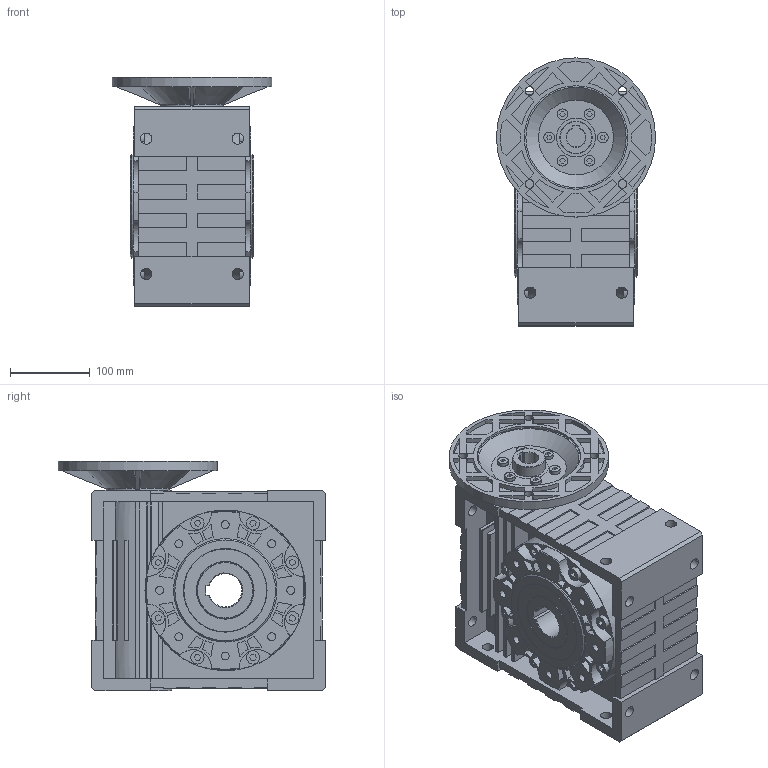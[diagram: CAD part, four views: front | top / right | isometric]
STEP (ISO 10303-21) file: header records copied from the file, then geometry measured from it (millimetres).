
FILE_DESCRIPTION(/* description */ (''),/* implementation_level */ '2;1');
FILE_NAME(/* name */ 'Z:\동력 3D 파일\PCMRV110_90B5_3D.stp',/* time_stamp */ '2021-12-01T17:35:33+09:00',/* author */ ('jaebok'),/* organization */ (''),/* preprocessor_version */ 'ST-DEVELOPER v18.1',/* originating_system */ 'Autodesk Inventor 2022',/* authorisation */ '');
FILE_SCHEMA (('AUTOMOTIVE_DESIGN { 1 0 10303 214 3 1 1 }'));
Length unit declared in the file: millimetre
Products named in the file (1): 부품57
Bounding box: 200 x 336.5 x 288 mm (x, y, z)
Volume: 8651435.5 mm3; surface area: 628908.4 mm2
Topology: 1 solids, 1 shells, 958 faces, 2456 edges, 1633 vertices
Faces by surface type: plane 634, cylinder 291, cone 33
Full cylindrical faces by diameter (mm): 10 x16, 11 x4, 13.331 x6, 14 x16, 16.5 x16, 40.8 x1, 48.96 x1, 71.4 x2, 78.25 x2, 79 x1, 80.25 x2, 105 x2, 130 x3, 200 x1, 201.6 x2
Entity records: 30388 total; most frequent: CARTESIAN_POINT 5416, DIRECTION 4936, ORIENTED_EDGE 4912, EDGE_CURVE 2456, LINE 1758, VECTOR 1758, VERTEX_POINT 1633, AXIS2_PLACEMENT_3D 1589
